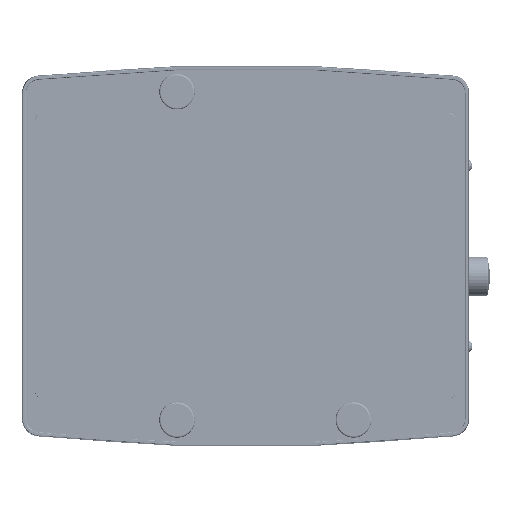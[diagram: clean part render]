
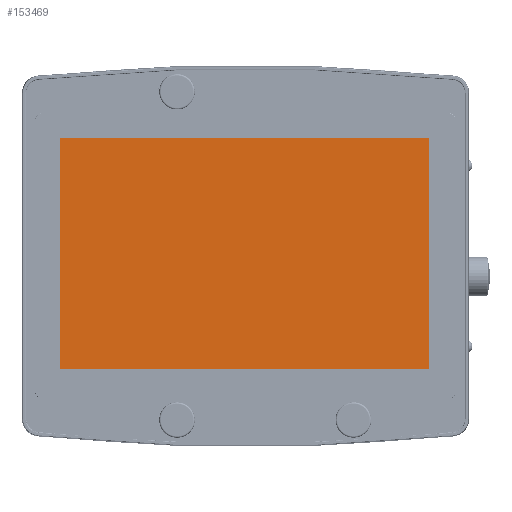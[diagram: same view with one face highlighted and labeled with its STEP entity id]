
A CAD part, top view. The second image highlights one B-rep face of the part: STEP entity #153469.
In plain terms, the highlighted planar face has unit normal (0, 0, 1).
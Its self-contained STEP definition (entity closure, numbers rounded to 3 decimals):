
#25264 = AXIS2_PLACEMENT_3D ( 'NONE', #305960, #139332, #334088 ) ;
#26761 = DIRECTION ( 'NONE',  ( -1., 0., 0. ) ) ;
#29235 = DIRECTION ( 'NONE',  ( 0., -1., 0. ) ) ;
#56162 = VECTOR ( 'NONE', #29235, 1000. ) ;
#75446 = DIRECTION ( 'NONE',  ( 1., 0., 0. ) ) ;
#76514 = DIRECTION ( 'NONE',  ( 0., 1., 0. ) ) ;
#94040 = VERTEX_POINT ( 'NONE', #131343 ) ;
#120063 = VERTEX_POINT ( 'NONE', #307987 ) ;
#130201 = LINE ( 'NONE', #251782, #56162 ) ;
#131343 = CARTESIAN_POINT ( 'NONE',  ( 108.35, 69.865, 0. ) ) ;
#137537 = LINE ( 'NONE', #354082, #202665 ) ;
#139332 = DIRECTION ( 'NONE',  ( 0., 0., 1. ) ) ;
#153469 = ADVANCED_FACE ( 'NONE', ( #295203 ), #359641, .T. ) ;
#167779 = VECTOR ( 'NONE', #76514, 1000. ) ;
#179961 = EDGE_CURVE ( 'NONE', #120063, #265986, #130201, .T. ) ;
#187054 = CARTESIAN_POINT ( 'NONE',  ( 108.35, 69.865, 0. ) ) ;
#193850 = ORIENTED_EDGE ( 'NONE', *, *, #351384, .T. ) ;
#195370 = ORIENTED_EDGE ( 'NONE', *, *, #230385, .T. ) ;
#198051 = VECTOR ( 'NONE', #26761, 1000. ) ;
#202665 = VECTOR ( 'NONE', #75446, 1000. ) ;
#206706 = LINE ( 'NONE', #187054, #167779 ) ;
#218249 = CARTESIAN_POINT ( 'NONE',  ( 108.35, -66.535, 0. ) ) ;
#225291 = ORIENTED_EDGE ( 'NONE', *, *, #179961, .T. ) ;
#230385 = EDGE_CURVE ( 'NONE', #350814, #94040, #206706, .T. ) ;
#234714 = EDGE_LOOP ( 'NONE', ( #225291, #302425, #195370, #193850 ) ) ;
#251782 = CARTESIAN_POINT ( 'NONE',  ( -109.35, 69.865, 0. ) ) ;
#262596 = CARTESIAN_POINT ( 'NONE',  ( -109.35, -66.535, 0. ) ) ;
#265986 = VERTEX_POINT ( 'NONE', #262596 ) ;
#295203 = FACE_OUTER_BOUND ( 'NONE', #234714, .T. ) ;
#302425 = ORIENTED_EDGE ( 'NONE', *, *, #321289, .T. ) ;
#305960 = CARTESIAN_POINT ( 'NONE',  ( 0., 0., 0. ) ) ;
#307987 = CARTESIAN_POINT ( 'NONE',  ( -109.35, 69.865, 0. ) ) ;
#321289 = EDGE_CURVE ( 'NONE', #265986, #350814, #137537, .T. ) ;
#332281 = CARTESIAN_POINT ( 'NONE',  ( -109.35, 69.865, 0. ) ) ;
#334088 = DIRECTION ( 'NONE',  ( 1., 0., 0. ) ) ;
#346280 = LINE ( 'NONE', #332281, #198051 ) ;
#350814 = VERTEX_POINT ( 'NONE', #218249 ) ;
#351384 = EDGE_CURVE ( 'NONE', #94040, #120063, #346280, .T. ) ;
#354082 = CARTESIAN_POINT ( 'NONE',  ( -109.35, -66.535, 0. ) ) ;
#359641 = PLANE ( 'NONE',  #25264 ) ;
